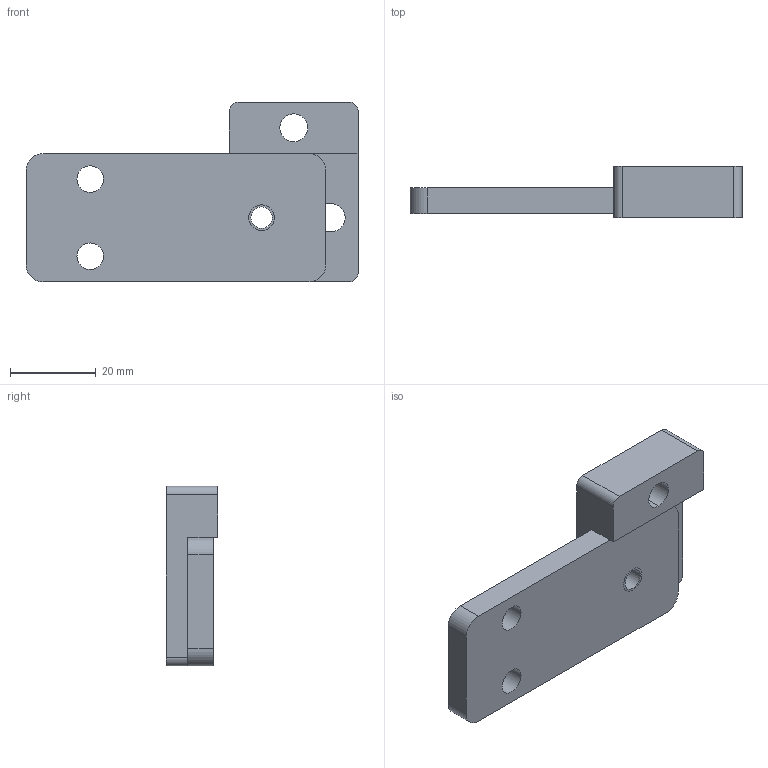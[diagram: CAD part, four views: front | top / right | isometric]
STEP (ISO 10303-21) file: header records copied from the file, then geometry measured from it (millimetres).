
FILE_DESCRIPTION((''),'2;1');
FILE_NAME('FIPA4545S_ASM','2002-12-27T',('Lipro doo'),('Lipro d.o.o.'),'PRO/ENGINEER BY PARAMETRIC TECHNOLOGY CORPORATION, 2001150','PRO/ENGINEER BY PARAMETRIC TECHNOLOGY CORPORATION, 2001150','');
FILE_SCHEMA(('CONFIG_CONTROL_DESIGN'));
Length unit declared in the file: millimetre
Products named in the file (3): FIPA_2; FIPA_1; FIPA4545S_ASM
Assembly tree (2 placements, depth 2):
  FIPA4545S_ASM
    FIPA_2
    FIPA_1
Bounding box: 77.5 x 12 x 42 mm (x, y, z)
Volume: 19692.1 mm3; surface area: 9558.6 mm2
Topology: 2 solids, 3 shells, 38 faces, 100 edges, 66 vertices
Faces by surface type: cylinder 20, plane 16, cone 2
Entity records: 1313 total; most frequent: DIRECTION 232, CARTESIAN_POINT 211, ORIENTED_EDGE 196, EDGE_CURVE 100, AXIS2_PLACEMENT_3D 87, VERTEX_POINT 66, VECTOR 58, LINE 58
